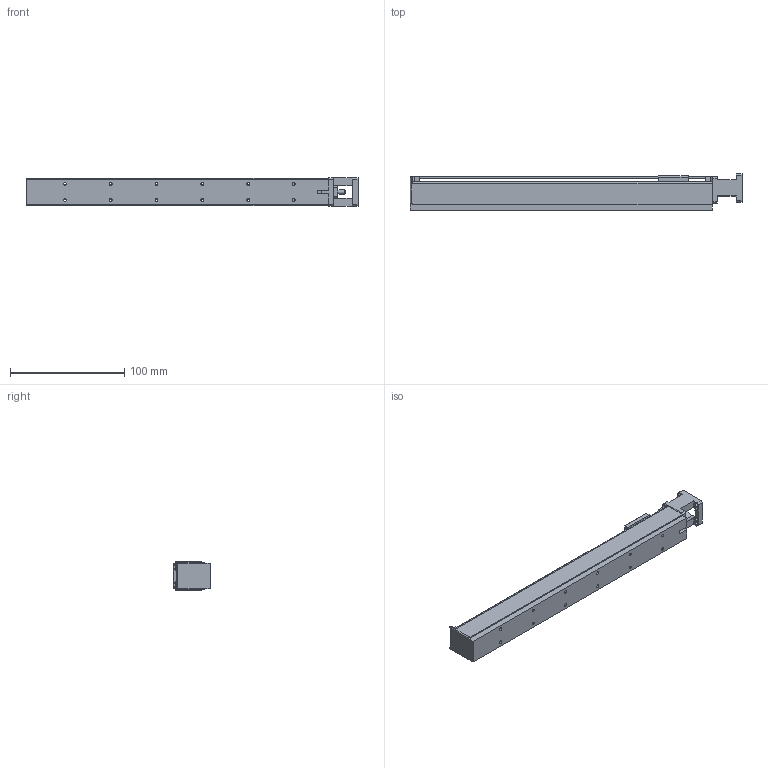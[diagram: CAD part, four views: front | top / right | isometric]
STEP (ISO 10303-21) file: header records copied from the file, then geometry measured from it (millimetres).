
FILE_DESCRIPTION (( 'STEP AP203' ), '1' );
FILE_NAME ('FAS-200.STEP', '2015-08-25T04:53:53', ( '' ), ( '' ), 'SwSTEP 2.0', 'SolidWorks 2015', '' );
FILE_SCHEMA (( 'CONFIG_CONTROL_DESIGN' ));
Length unit declared in the file: millimetre
Products named in the file (1): FAS-200
Bounding box: 290 x 32 x 25 mm (x, y, z)
Volume: 72570.5 mm3; surface area: 55271.8 mm2
Topology: 2 solids, 2 shells, 162 faces, 465 edges, 302 vertices
Faces by surface type: plane 90, cylinder 68, cone 2, sphere 2
Entity records: 5476 total; most frequent: DIRECTION 931, CARTESIAN_POINT 928, ORIENTED_EDGE 926, EDGE_CURVE 463, VECTOR 321, LINE 321, AXIS2_PLACEMENT_3D 305, VERTEX_POINT 302
